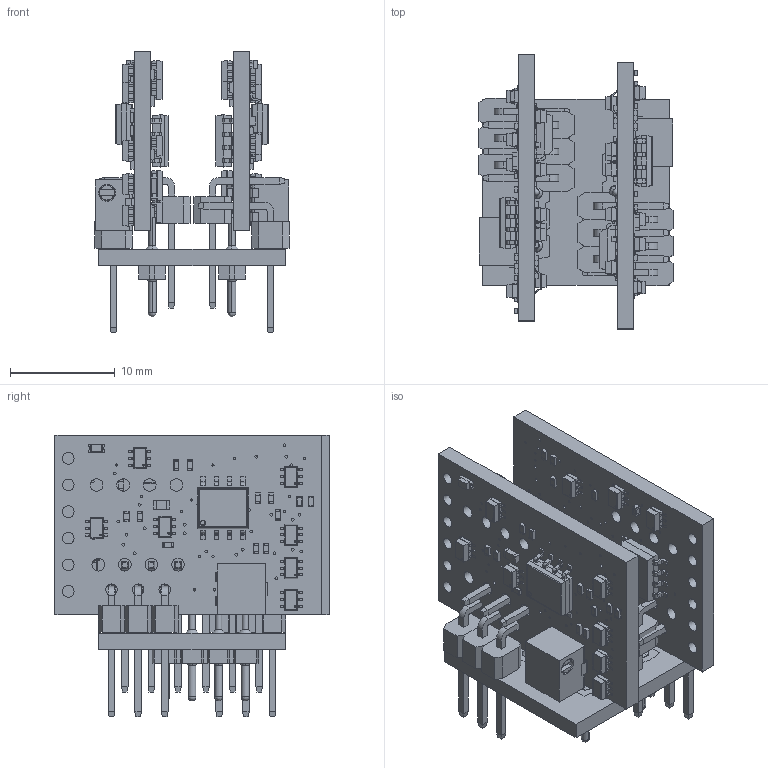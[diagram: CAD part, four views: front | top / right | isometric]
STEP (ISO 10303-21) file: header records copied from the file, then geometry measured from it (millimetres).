
FILE_DESCRIPTION(('for SolidWorks'),'2;1');
FILE_NAME('C:\www\opencart-4.1.0.3\ImagesForSite\3D_models\Bel_amp_dual_wide_20260806.step','2026-09-23T19:59:51',('B'),(''), 'Open CASCADE STEP processor 6.6','DipTrace','Unknown');
FILE_SCHEMA(('AUTOMOTIVE_DESIGN { 1 0 10303 214 1 1 1 1 }'));
Length unit declared in the file: millimetre
Products named in the file (4): PCB_Bel_amp_dual_wide_20260806; Board_Bel_amp_dual_wide_20260806; preci-dip_800-10-004-10-002101; Bel_amp_wide_vert-mount_202160806
Assembly tree (5 placements, depth 2):
  PCB_Bel_amp_dual_wide_20260806
    Board_Bel_amp_dual_wide_20260806
    preci-dip_800-10-004-10-002101  x2
    Bel_amp_wide_vert-mount_202160806  x2
Bounding box: 18.54 x 26.16 x 26.91 mm (x, y, z)
Volume: 628.3 mm3; surface area: 5731.4 mm2
Topology: 3 solids, 471 shells, 6774 faces, 16754 edges, 10920 vertices
Faces by surface type: plane 5606, cylinder 1066, cone 42, sphere 40, torus 18, bspline 2
Full cylindrical faces by diameter (mm): 0.156 x24, 0.163 x2, 0.254 x4, 0.41 x4, 1.1 x30, 1.2 x24
Entity records: 124267 total; most frequent: CARTESIAN_POINT 17418, ORIENTED_EDGE 16770, DIRECTION 16208, EDGE_CURVE 8385, LINE 7320, VECTOR 7320, VERTEX_POINT 5484, AXIS2_PLACEMENT_3D 4444
